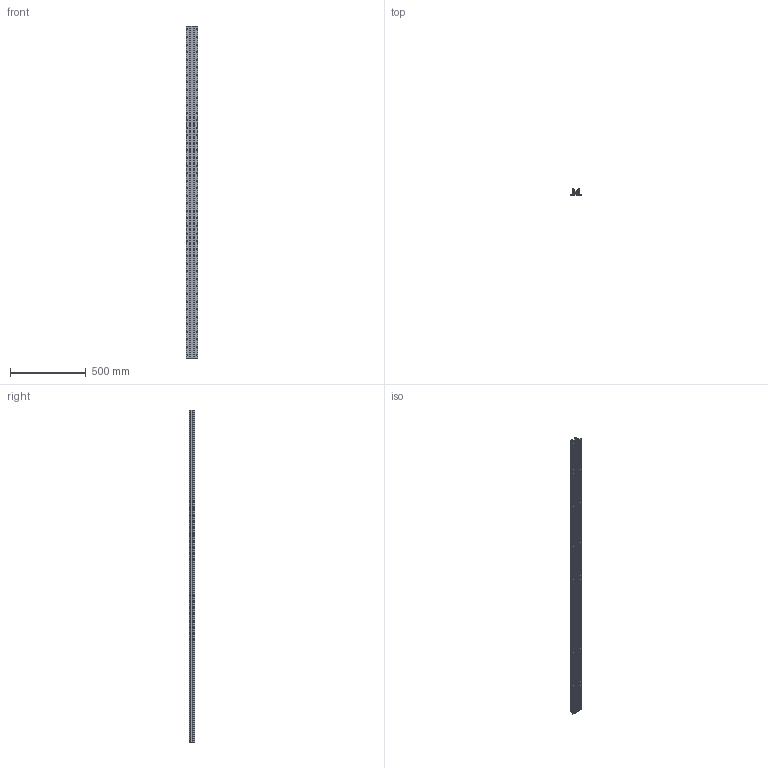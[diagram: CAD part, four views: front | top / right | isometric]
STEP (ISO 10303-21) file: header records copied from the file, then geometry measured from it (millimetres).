
FILE_DESCRIPTION (( 'STEP AP203' ), '1' );
FILE_NAME ('LFS-8-7_-_L=2196.step', '2006-12-18T13:28:06', ( ' ' ), ( ' ' ), 'SwSTEP 2.0', 'SolidWorks 2006089', '' );
FILE_SCHEMA (( 'CONFIG_CONTROL_DESIGN' ));
Length unit declared in the file: millimetre
Products named in the file (1): LFS-8-7_-_L=2196
Bounding box: 78 x 36 x 2196 mm (x, y, z)
Volume: 1900061 mm3; surface area: 1221019.2 mm2
Topology: 3 solids, 3 shells, 527 faces, 1651 edges, 1042 vertices
Faces by surface type: plane 295, cylinder 232
Entity records: 18598 total; most frequent: CARTESIAN_POINT 4277, ORIENTED_EDGE 3302, DIRECTION 2819, EDGE_CURVE 1651, VERTEX_POINT 1042, AXIS2_PLACEMENT_3D 992, VECTOR 835, LINE 835
